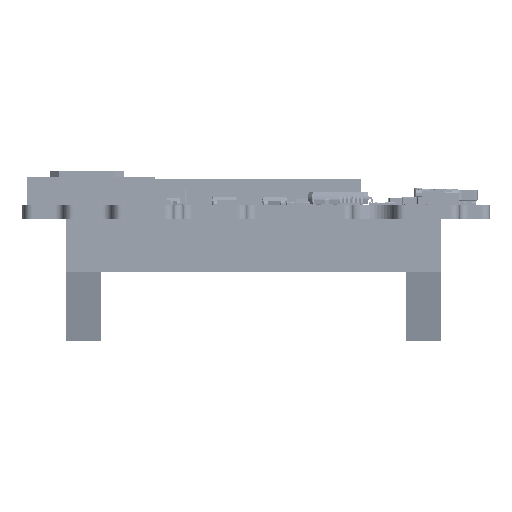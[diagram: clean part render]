
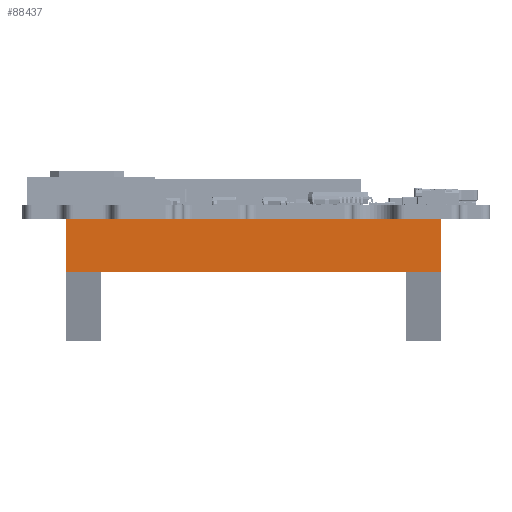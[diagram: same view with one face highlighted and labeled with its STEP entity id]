
A CAD part, left-side view. The second image highlights one B-rep face of the part: STEP entity #88437.
In plain terms, the highlighted planar face has unit normal (-1, 0, 0).
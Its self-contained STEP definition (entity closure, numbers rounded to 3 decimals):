
#87967 = VERTEX_POINT('',#87968);
#87968 = CARTESIAN_POINT('',(-9.,0.,-21.5));
#87985 = VERTEX_POINT('',#87986);
#87986 = CARTESIAN_POINT('',(-9.,0.,21.5));
#87992 = EDGE_CURVE('',#87985,#87967,#87993,.T.);
#87993 = LINE('',#87994,#87995);
#87994 = CARTESIAN_POINT('',(-9.,0.,21.5));
#87995 = VECTOR('',#87996,1.);
#87996 = DIRECTION('',(0.,0.,-1.));
#88280 = VERTEX_POINT('',#88281);
#88281 = CARTESIAN_POINT('',(-9.,6.,-17.5));
#88289 = VERTEX_POINT('',#88290);
#88290 = CARTESIAN_POINT('',(-9.,6.,-21.5));
#88296 = EDGE_CURVE('',#88280,#88289,#88297,.T.);
#88297 = LINE('',#88298,#88299);
#88298 = CARTESIAN_POINT('',(-9.,6.,21.5));
#88299 = VECTOR('',#88300,1.);
#88300 = DIRECTION('',(0.,0.,-1.));
#88412 = VERTEX_POINT('',#88413);
#88413 = CARTESIAN_POINT('',(-9.,6.,17.5));
#88419 = EDGE_CURVE('',#88420,#88412,#88422,.T.);
#88420 = VERTEX_POINT('',#88421);
#88421 = CARTESIAN_POINT('',(-9.,6.,21.5));
#88422 = LINE('',#88423,#88424);
#88423 = CARTESIAN_POINT('',(-9.,6.,21.5));
#88424 = VECTOR('',#88425,1.);
#88425 = DIRECTION('',(0.,0.,-1.));
#88437 = ADVANCED_FACE('',(#88438),#88461,.F.);
#88438 = FACE_BOUND('',#88439,.T.);
#88439 = EDGE_LOOP('',(#88440,#88446,#88447,#88453,#88454,#88460));
#88440 = ORIENTED_EDGE('',*,*,#88441,.T.);
#88441 = EDGE_CURVE('',#88289,#87967,#88442,.T.);
#88442 = LINE('',#88443,#88444);
#88443 = CARTESIAN_POINT('',(-9.,0.,-21.5));
#88444 = VECTOR('',#88445,1.);
#88445 = DIRECTION('',(0.,-1.,0.));
#88446 = ORIENTED_EDGE('',*,*,#87992,.F.);
#88447 = ORIENTED_EDGE('',*,*,#88448,.F.);
#88448 = EDGE_CURVE('',#88420,#87985,#88449,.T.);
#88449 = LINE('',#88450,#88451);
#88450 = CARTESIAN_POINT('',(-9.,0.,21.5));
#88451 = VECTOR('',#88452,1.);
#88452 = DIRECTION('',(0.,-1.,0.));
#88453 = ORIENTED_EDGE('',*,*,#88419,.T.);
#88454 = ORIENTED_EDGE('',*,*,#88455,.F.);
#88455 = EDGE_CURVE('',#88280,#88412,#88456,.T.);
#88456 = LINE('',#88457,#88458);
#88457 = CARTESIAN_POINT('',(-9.,6.,-17.5));
#88458 = VECTOR('',#88459,1.);
#88459 = DIRECTION('',(0.,0.,1.));
#88460 = ORIENTED_EDGE('',*,*,#88296,.T.);
#88461 = PLANE('',#88462);
#88462 = AXIS2_PLACEMENT_3D('',#88463,#88464,#88465);
#88463 = CARTESIAN_POINT('',(-9.,0.,21.5));
#88464 = DIRECTION('',(1.,0.,0.));
#88465 = DIRECTION('',(0.,1.,0.));
